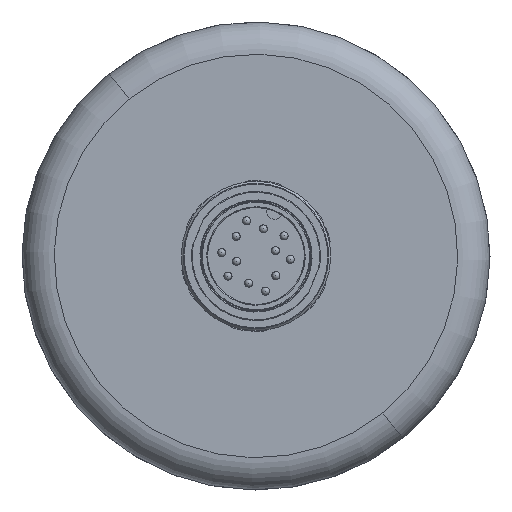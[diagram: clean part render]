
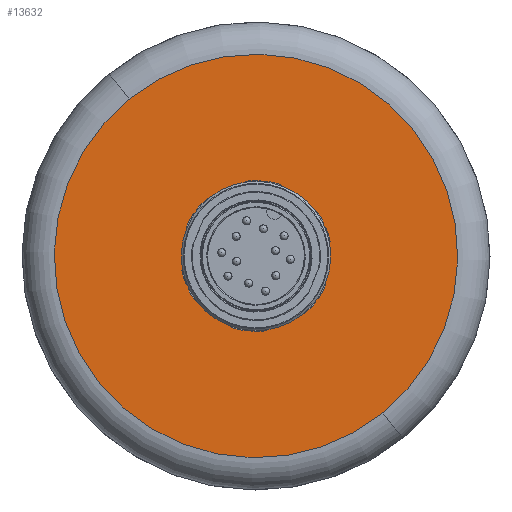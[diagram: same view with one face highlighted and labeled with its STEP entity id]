
A CAD part, left-side view. The second image highlights one B-rep face of the part: STEP entity #13632.
In plain terms, the highlighted planar face has unit normal (-1, 0, 0).
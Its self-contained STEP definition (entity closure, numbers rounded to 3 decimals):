
#5985 = FACE_OUTER_BOUND ( 'NONE', #13645, .T. ) ;
#5986 = FACE_BOUND ( 'NONE', #13713, .T. ) ;
#6007 = CARTESIAN_POINT ( 'NONE',  ( -18.95, 0., 0. ) ) ;
#6008 = AXIS2_PLACEMENT_3D ( 'NONE', #6007, #6060, #6059 ) ;
#6009 = PLANE ( 'NONE',  #6008 ) ;
#6019 = CIRCLE ( 'NONE', #6058, 7.6 ) ;
#6028 = CARTESIAN_POINT ( 'NONE',  ( -18.95, 0., 0. ) ) ;
#6053 = DIRECTION ( 'NONE',  ( 0., 0.628, 0.778 ) ) ;
#6054 = DIRECTION ( 'NONE',  ( -1., 0., 0. ) ) ;
#6058 = AXIS2_PLACEMENT_3D ( 'NONE', #6028, #6054, #6053 ) ;
#6059 = DIRECTION ( 'NONE',  ( 0., -0.628, -0.778 ) ) ;
#6060 = DIRECTION ( 'NONE',  ( 1., 0., 0. ) ) ;
#6074 = DIRECTION ( 'NONE',  ( 0., -0.628, -0.778 ) ) ;
#6075 = DIRECTION ( 'NONE',  ( -1., 0., 0. ) ) ;
#6076 = CARTESIAN_POINT ( 'NONE',  ( -18.95, 0., 0. ) ) ;
#6077 = AXIS2_PLACEMENT_3D ( 'NONE', #6076, #6075, #6074 ) ;
#6078 = CIRCLE ( 'NONE', #6077, 25. ) ;
#6080 = CARTESIAN_POINT ( 'NONE',  ( -18.95, 4.773, 5.914 ) ) ;
#6081 = DIRECTION ( 'NONE',  ( 0., 0.628, 0.778 ) ) ;
#6082 = DIRECTION ( 'NONE',  ( -1., 0., 0. ) ) ;
#6083 = AXIS2_PLACEMENT_3D ( 'NONE', #6092, #6082, #6081 ) ;
#6086 = CIRCLE ( 'NONE', #6083, 7.6 ) ;
#6092 = CARTESIAN_POINT ( 'NONE',  ( -18.95, 0., 0. ) ) ;
#6512 = CARTESIAN_POINT ( 'NONE',  ( -18.95, -15.7, -19.455 ) ) ;
#6513 = CARTESIAN_POINT ( 'NONE',  ( -18.95, 15.7, 19.455 ) ) ;
#6514 = DIRECTION ( 'NONE',  ( 0., -0.628, -0.778 ) ) ;
#6515 = DIRECTION ( 'NONE',  ( -1., 0., 0. ) ) ;
#6516 = CARTESIAN_POINT ( 'NONE',  ( -18.95, 0., 0. ) ) ;
#6517 = AXIS2_PLACEMENT_3D ( 'NONE', #6516, #6515, #6514 ) ;
#6522 = CIRCLE ( 'NONE', #6517, 25. ) ;
#6595 = CARTESIAN_POINT ( 'NONE',  ( -18.95, -4.773, -5.914 ) ) ;
#13632 = ADVANCED_FACE ( 'NONE', ( #5986, #5985 ), #6009, .F. ) ;
#13633 = ORIENTED_EDGE ( 'NONE', *, *, #13634, .F. ) ;
#13634 = EDGE_CURVE ( 'NONE', #13642, #13854, #6019, .T. ) ;
#13641 = EDGE_CURVE ( 'NONE', #13854, #13642, #6086, .T. ) ;
#13642 = VERTEX_POINT ( 'NONE', #6080 ) ;
#13644 = ORIENTED_EDGE ( 'NONE', *, *, #13641, .F. ) ;
#13645 = EDGE_LOOP ( 'NONE', ( #13646, #13649 ) ) ;
#13646 = ORIENTED_EDGE ( 'NONE', *, *, #13647, .T. ) ;
#13647 = EDGE_CURVE ( 'NONE', #13807, #13806, #6078, .T. ) ;
#13649 = ORIENTED_EDGE ( 'NONE', *, *, #13805, .T. ) ;
#13713 = EDGE_LOOP ( 'NONE', ( #13633, #13644 ) ) ;
#13805 = EDGE_CURVE ( 'NONE', #13806, #13807, #6522, .T. ) ;
#13806 = VERTEX_POINT ( 'NONE', #6513 ) ;
#13807 = VERTEX_POINT ( 'NONE', #6512 ) ;
#13854 = VERTEX_POINT ( 'NONE', #6595 ) ;
